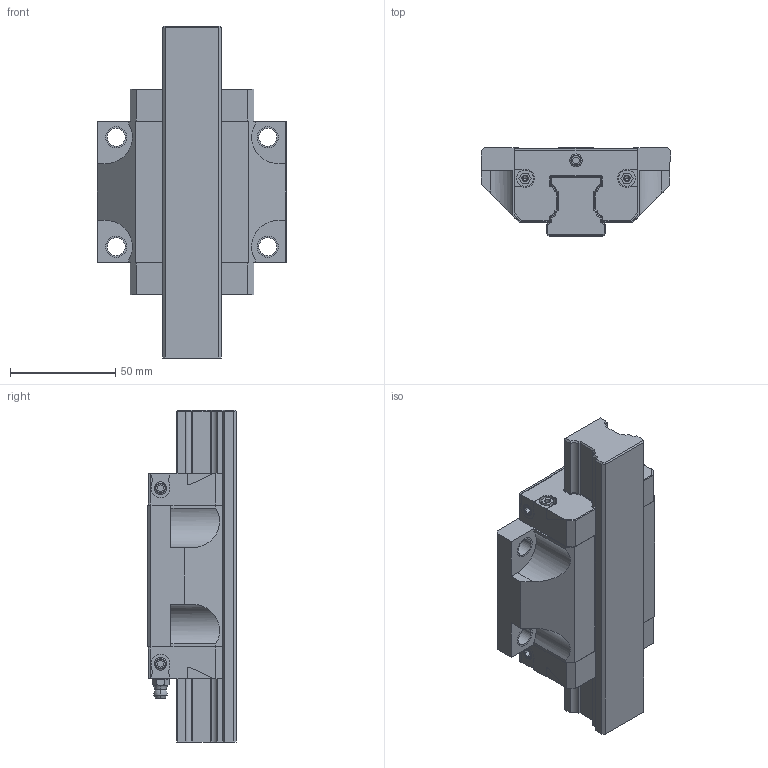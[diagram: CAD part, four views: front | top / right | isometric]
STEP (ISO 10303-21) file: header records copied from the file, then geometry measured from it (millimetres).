
FILE_DESCRIPTION((''),'2;1');
FILE_NAME('KWD_030_FNS_AL__ASM','2021-10-14T08:27:06',('ac91sw'),(''),'CREO PARAMETRIC BY PTC INC, 2020044','CREO PARAMETRIC BY PTC INC, 2020044','');
FILE_SCHEMA(('AUTOMOTIVE_DESIGN { 1 0 10303 214 1 1 1 1 }'));
Length unit declared in the file: millimetre
Products named in the file (7): KWD_030_FNS_AL__SKEL; R200170101; R200170102_Z; R343706101_Z; KWD_030_FNS_AL__PSF; R341700802_Z; KWD_030_FNS_AL__ASM
Assembly tree (11 placements, depth 2):
  KWD_030_FNS_AL__ASM
    KWD_030_FNS_AL__SKEL
    R200170101
    R200170102_Z  x2
    R343706101_Z  x5
    KWD_030_FNS_AL__PSF
    R341700802_Z
Bounding box: 90 x 42 x 157.7 mm (x, y, z)
Volume: 261909.5 mm3; surface area: 69240.1 mm2
Topology: 10 solids, 28 shells, 554 faces, 1430 edges, 918 vertices
Faces by surface type: plane 318, cylinder 162, cone 68, torus 4, sphere 2
Entity records: 17972 total; most frequent: CARTESIAN_POINT 2287, DIRECTION 1904, ORIENTED_EDGE 1780, EDGE_CURVE 914, PROPERTY_DEFINITION 822, REPRESENTATION 813, PROPERTY_DEFINITION_REPRESENTATION 813, DESCRIPTIVE_REPRESENTATION_ITEM 756
